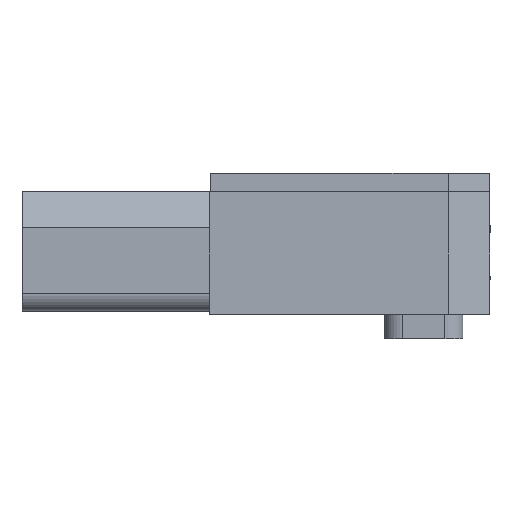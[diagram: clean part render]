
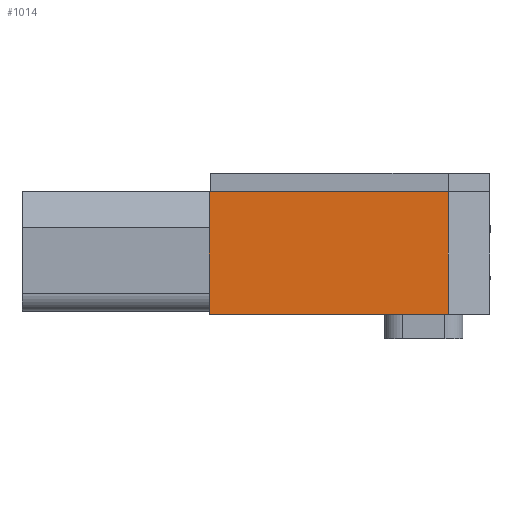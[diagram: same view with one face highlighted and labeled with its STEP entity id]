
A CAD part, front view. The second image highlights one B-rep face of the part: STEP entity #1014.
In plain terms, the highlighted planar face has unit normal (0, -1, 0).
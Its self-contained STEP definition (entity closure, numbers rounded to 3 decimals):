
#1014=ADVANCED_FACE('',(#2692),#2693,.T.);
#2692=FACE_OUTER_BOUND('',#5235,.T.);
#2693=PLANE('',#5236);
#5235=EDGE_LOOP('',(#8307,#8308,#8309,#8310));
#5236=AXIS2_PLACEMENT_3D('',#8311,#8312,#8313);
#8307=ORIENTED_EDGE('',*,*,#15542,.F.);
#8308=ORIENTED_EDGE('',*,*,#15355,.F.);
#8309=ORIENTED_EDGE('',*,*,#15543,.F.);
#8310=ORIENTED_EDGE('',*,*,#15409,.T.);
#8311=CARTESIAN_POINT('',(93.5,0.0,0.0));
#8312=DIRECTION('',(0.0,-1.0,0.0));
#8313=DIRECTION('',(0.0,0.0,-1.0));
#15355=EDGE_CURVE('',#18101,#18102,#18103,.T.);
#15409=EDGE_CURVE('',#18202,#18200,#18203,.T.);
#15542=EDGE_CURVE('',#18102,#18200,#18437,.T.);
#15543=EDGE_CURVE('',#18202,#18101,#18438,.T.);
#18101=VERTEX_POINT('',#22185);
#18102=VERTEX_POINT('',#22186);
#18103=LINE('',#22187,#22188);
#18200=VERTEX_POINT('',#22331);
#18202=VERTEX_POINT('',#22334);
#18203=LINE('',#22335,#22336);
#18437=LINE('',#22705,#22706);
#18438=LINE('',#22707,#22708);
#22185=CARTESIAN_POINT('',(0.0,0.0,41.0));
#22186=CARTESIAN_POINT('',(79.644,0.0,41.0));
#22187=CARTESIAN_POINT('',(93.5,0.0,41.0));
#22188=VECTOR('',#28782,1.0);
#22331=CARTESIAN_POINT('',(79.644,0.0,0.0));
#22334=CARTESIAN_POINT('',(0.0,0.0,0.0));
#22335=CARTESIAN_POINT('',(93.5,0.0,0.0));
#22336=VECTOR('',#28830,1.0);
#22705=CARTESIAN_POINT('',(79.644,0.0,0.0));
#22706=VECTOR('',#28926,1.0);
#22707=CARTESIAN_POINT('',(0.0,0.0,0.0));
#22708=VECTOR('',#28927,1.0);
#28782=DIRECTION('',(1.0,0.0,0.0));
#28830=DIRECTION('',(1.0,0.0,0.0));
#28926=DIRECTION('',(0.0,0.0,-1.0));
#28927=DIRECTION('',(0.0,0.0,1.0));
